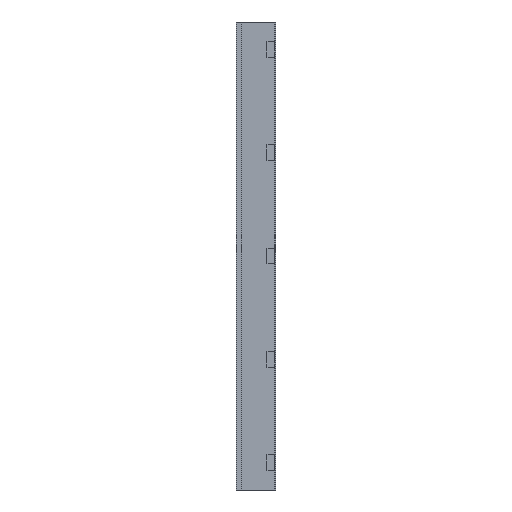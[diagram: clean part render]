
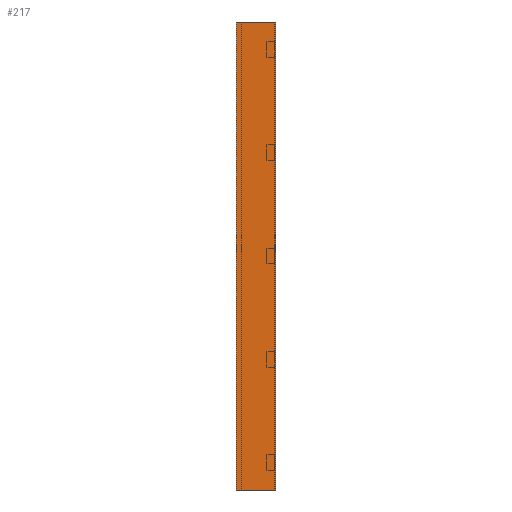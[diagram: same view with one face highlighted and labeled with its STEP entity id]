
A CAD part, left-side view. The second image highlights one B-rep face of the part: STEP entity #217.
In plain terms, the highlighted planar face has unit normal (-1, 0, 0).
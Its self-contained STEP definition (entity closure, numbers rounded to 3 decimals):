
#86 = VECTOR ( 'NONE', #645, 1000. ) ;
#104 = DIRECTION ( 'NONE',  ( 0., -1., 0. ) ) ;
#105 = VERTEX_POINT ( 'NONE', #1059 ) ;
#123 = VERTEX_POINT ( 'NONE', #418 ) ;
#217 = ADVANCED_FACE ( 'NONE', ( #534 ), #1464, .T. ) ;
#224 = ORIENTED_EDGE ( 'NONE', *, *, #744, .T. ) ;
#246 = VERTEX_POINT ( 'NONE', #312 ) ;
#312 = CARTESIAN_POINT ( 'NONE',  ( 0., 0., -1200. ) ) ;
#313 = VECTOR ( 'NONE', #104, 1000. ) ;
#418 = CARTESIAN_POINT ( 'NONE',  ( 0., 100., 0. ) ) ;
#428 = VECTOR ( 'NONE', #1378, 1000. ) ;
#534 = FACE_OUTER_BOUND ( 'NONE', #730, .T. ) ;
#541 = LINE ( 'NONE', #1284, #313 ) ;
#621 = CARTESIAN_POINT ( 'NONE',  ( 0., 0., 0. ) ) ;
#645 = DIRECTION ( 'NONE',  ( 0., -1., 0. ) ) ;
#663 = ORIENTED_EDGE ( 'NONE', *, *, #1499, .F. ) ;
#666 = AXIS2_PLACEMENT_3D ( 'NONE', #1208, #1598, #947 ) ;
#730 = EDGE_LOOP ( 'NONE', ( #847, #663, #1354, #224 ) ) ;
#731 = CARTESIAN_POINT ( 'NONE',  ( 0., 0., -1200. ) ) ;
#744 = EDGE_CURVE ( 'NONE', #246, #1345, #1114, .T. ) ;
#767 = LINE ( 'NONE', #1591, #86 ) ;
#847 = ORIENTED_EDGE ( 'NONE', *, *, #1456, .F. ) ;
#947 = DIRECTION ( 'NONE',  ( 0., 0., 1. ) ) ;
#1040 = LINE ( 'NONE', #1455, #1496 ) ;
#1059 = CARTESIAN_POINT ( 'NONE',  ( 0., 100., -1200. ) ) ;
#1114 = LINE ( 'NONE', #731, #428 ) ;
#1208 = CARTESIAN_POINT ( 'NONE',  ( 0., 0., -1200. ) ) ;
#1284 = CARTESIAN_POINT ( 'NONE',  ( 0., 0., -1200. ) ) ;
#1302 = DIRECTION ( 'NONE',  ( 0., 0., 1. ) ) ;
#1345 = VERTEX_POINT ( 'NONE', #621 ) ;
#1354 = ORIENTED_EDGE ( 'NONE', *, *, #1536, .T. ) ;
#1378 = DIRECTION ( 'NONE',  ( 0., 0., 1. ) ) ;
#1455 = CARTESIAN_POINT ( 'NONE',  ( 0., 100., -1200. ) ) ;
#1456 = EDGE_CURVE ( 'NONE', #123, #1345, #767, .T. ) ;
#1464 = PLANE ( 'NONE',  #666 ) ;
#1496 = VECTOR ( 'NONE', #1302, 1000. ) ;
#1499 = EDGE_CURVE ( 'NONE', #105, #123, #1040, .T. ) ;
#1536 = EDGE_CURVE ( 'NONE', #105, #246, #541, .T. ) ;
#1591 = CARTESIAN_POINT ( 'NONE',  ( 0., 0., 0. ) ) ;
#1598 = DIRECTION ( 'NONE',  ( -1., 0., 0. ) ) ;
